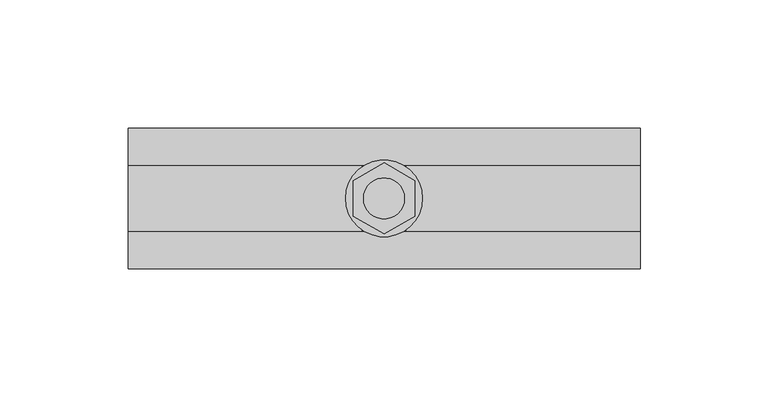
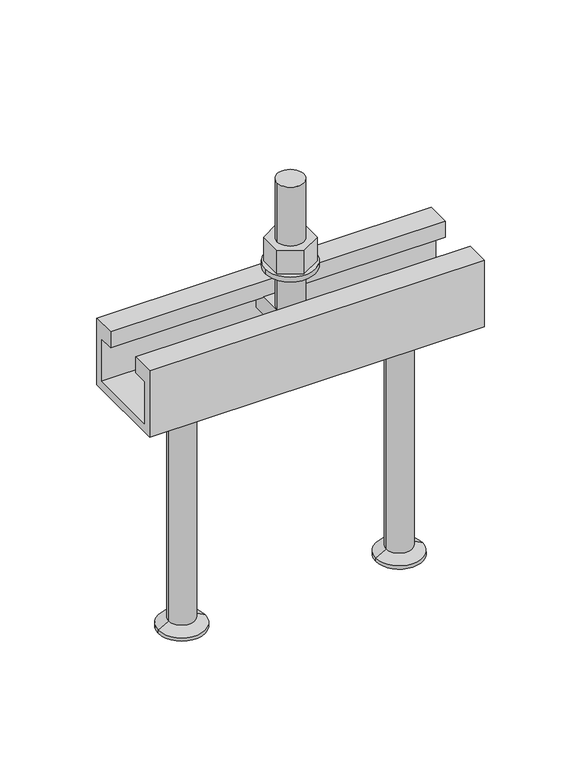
"""IFC4 building model written with IfcOpenShell, lengths in millimetres: fastener geometry, JTA-W JORDAHL® AnchorChannels : JTA-W L=200 mm."""

import ifcopenshell
import ifcopenshell.guid

model = None  # the IFC model being written
_history = None  # IfcOwnerHistory: only IFC2X3 demands one
_inside = {}  # id of a spatial element -> (the spatial element, [elements in it])
_under = {}  # id of a project, library or spatial element -> (it, [spatial elements below it])
_declared = {}  # id of a project -> (the project, [libraries it declares])
_typed = {}  # id of a type object -> (the type object, [elements of that type])
_made_of = {}  # id of a material, layer set ... -> (it, [elements and type objects made of it])


def new_model(schema):
    """Start an empty IFC model of exactly this schema.

    Asked for "IFC4X3", IfcOpenShell would pick the latest addendum, in which some entities
    have other attributes; the version numbers below select the first issue.
    IFC2X3 requires an IfcOwnerHistory on every rooted entity: one is made here for all.
    """
    global model, _history
    if schema == "IFC4X3":
        model = ifcopenshell.file(schema_version=(4, 3, 0, 0))
    else:
        model = ifcopenshell.file(schema=schema)
    _inside.clear()
    _under.clear()
    _declared.clear()
    _typed.clear()
    _made_of.clear()
    _history = None
    if model.schema == "IFC2X3":
        org = make("IfcOrganization", Name="unknown")
        user = make(
            "IfcPersonAndOrganization",
            ThePerson=make("IfcPerson", FamilyName="unknown"),
            TheOrganization=org,
        )
        app = make(
            "IfcApplication",
            ApplicationDeveloper=org,
            Version="unknown",
            ApplicationFullName="unknown",
            ApplicationIdentifier="unknown",
        )
        _history = make(
            "IfcOwnerHistory",
            OwningUser=user,
            OwningApplication=app,
            ChangeAction="ADDED",
            CreationDate=0,
        )
    return model


def make(cls, **values):
    """One entity of the class cls with the attributes given. An attribute that is None is left unset."""
    return model.create_entity(
        cls, **{name: value for name, value in values.items() if value is not None}
    )


def rooted(cls, **values):
    """An entity with a GlobalId (a new one), such as an element, a storey or a relation."""
    return make(cls, GlobalId=ifcopenshell.guid.new(), OwnerHistory=_history, **values)


def si_unit(unit_type, name, prefix=None):
    """IfcSIUnit, for example si_unit("LENGTHUNIT", "METRE", prefix="MILLI")."""
    return make("IfcSIUnit", UnitType=unit_type, Prefix=prefix, Name=name)


def assignment(units):
    """IfcUnitAssignment: the units of a project."""
    return None if units is None else make("IfcUnitAssignment", Units=units)


def point(xyz):
    """IfcCartesianPoint."""
    return None if xyz is None else make("IfcCartesianPoint", Coordinates=xyz)


def direction(xyz):
    """IfcDirection."""
    return None if xyz is None else make("IfcDirection", DirectionRatios=xyz)


def frame(location, z_axis=None, x_axis=None):
    """IfcAxis2Placement3D, a coordinate frame: its origin and axes. An axis left out is left unset."""
    return make(
        "IfcAxis2Placement3D",
        Location=point(location),
        Axis=direction(z_axis),
        RefDirection=direction(x_axis),
    )


def frame_2d(location, x_axis=None):
    """IfcAxis2Placement2D, a coordinate frame in the plane: its origin and x axis."""
    return make(
        "IfcAxis2Placement2D", Location=point(location), RefDirection=direction(x_axis)
    )


def origin():
    """The frame at (0, 0, 0) with its axes left unset."""
    return frame((0.0, 0.0, 0.0))


def place(relative_to, where):
    """IfcLocalPlacement: puts the frame where relative to a parent placement (None: the world)."""
    return make(
        "IfcLocalPlacement", PlacementRelTo=relative_to, RelativePlacement=where
    )


def context(
    kind, dimensions, precision=None, world=None, true_north=None, identifier=None
):
    """IfcGeometricRepresentationContext, for example the 3D "Model" context."""
    return make(
        "IfcGeometricRepresentationContext",
        ContextIdentifier=identifier,
        ContextType=kind,
        CoordinateSpaceDimension=dimensions,
        Precision=precision,
        WorldCoordinateSystem=world,
        TrueNorth=true_north,
    )


def project(units=None, contexts=None):
    """IfcProject with its units and contexts."""
    return rooted(
        "IfcProject",
        Name="project",
        RepresentationContexts=contexts,
        UnitsInContext=assignment(units),
    )


def spatial(cls, under=None, at=None, **own):
    """A site, building, storey or space (cls), placed at a placement, below another one or the project."""
    s = rooted(cls, ObjectPlacement=at, **own)
    if under is not None:
        _under.setdefault(under.id(), (under, []))[1].append(s)
    return s


def polyline(points):
    """IfcPolyline through the points."""
    return make("IfcPolyline", Points=[point(p) for p in points])


def circle_curve(where, radius):
    """IfcCircle in the frame where."""
    return make("IfcCircle", Position=where, Radius=radius)


def trimmed(basis, trim1, trim2, sense, master):
    """IfcTrimmedCurve: the piece of a basis curve between two trims."""
    return make(
        "IfcTrimmedCurve",
        BasisCurve=basis,
        Trim1=trim1,
        Trim2=trim2,
        SenseAgreement=sense,
        MasterRepresentation=master,
    )


def segment(curve, same_sense, transition):
    """IfcCompositeCurveSegment."""
    return make(
        "IfcCompositeCurveSegment",
        Transition=transition,
        SameSense=same_sense,
        ParentCurve=curve,
    )


def composite_curve(segments, self_intersect=None):
    """IfcCompositeCurve: segments joined end to end."""
    return make("IfcCompositeCurve", Segments=segments, SelfIntersect=self_intersect)


def outline(outer, holes=None, kind="AREA"):
    """IfcArbitraryClosedProfileDef: a profile drawn as a closed curve; with holes, ...WithVoids."""
    if holes is None:
        return make("IfcArbitraryClosedProfileDef", ProfileType=kind, OuterCurve=outer)
    return make(
        "IfcArbitraryProfileDefWithVoids",
        ProfileType=kind,
        OuterCurve=outer,
        InnerCurves=holes,
    )


def extrude(swept, where, along, depth):
    """IfcExtrudedAreaSolid: the profile swept, set in the frame where, extruded along a direction by depth."""
    return make(
        "IfcExtrudedAreaSolid",
        SweptArea=swept,
        Position=where,
        ExtrudedDirection=direction(along),
        Depth=depth,
    )


def shape(context_of_items, identifier, shape_type, items):
    """IfcShapeRepresentation: the items that make up one representation, for example the "Body"."""
    return make(
        "IfcShapeRepresentation",
        ContextOfItems=context_of_items,
        RepresentationIdentifier=identifier,
        RepresentationType=shape_type,
        Items=items,
    )


def source(mapping_origin, context_of_items, identifier, shape_type, items):
    """IfcRepresentationMap: a shape defined once, which mapped items show again and again."""
    return make(
        "IfcRepresentationMap",
        MappingOrigin=mapping_origin,
        MappedRepresentation=shape(context_of_items, identifier, shape_type, items),
    )


def transform(
    local_origin,
    x_axis=None,
    y_axis=None,
    z_axis=None,
    scale=None,
    scale2=None,
    scale3=None,
    uniform=True,
):
    """IfcCartesianTransformationOperator3D, or its non-uniform kind. x_axis, y_axis, z_axis: its Axis1, 2, 3."""
    if uniform:
        return make(
            "IfcCartesianTransformationOperator3D",
            Axis1=direction(x_axis),
            Axis2=direction(y_axis),
            LocalOrigin=point(local_origin),
            Scale=scale,
            Axis3=direction(z_axis),
        )
    return make(
        "IfcCartesianTransformationOperator3DnonUniform",
        Axis1=direction(x_axis),
        Axis2=direction(y_axis),
        LocalOrigin=point(local_origin),
        Scale=scale,
        Axis3=direction(z_axis),
        Scale2=scale2,
        Scale3=scale3,
    )


def mapped(mapping_source, mapping_target):
    """IfcMappedItem: shows the shape of a source again, moved by a transform."""
    return make(
        "IfcMappedItem", MappingSource=mapping_source, MappingTarget=mapping_target
    )


def made_of(thing, what):
    """Note that an element or type object is made of a material, layer set ...; save() writes the relation."""
    if what is not None:
        _made_of.setdefault(what.id(), (what, []))[1].append(thing)
    return thing


def element(
    cls,
    number,
    at=None,
    inside=None,
    cuts=None,
    type_object=None,
    material=None,
    context=None,
    identifier="Body",
    shape_type=None,
    held_by="IfcProductDefinitionShape",
    body=None,
    shapes=None,
    **own,
):
    """One element of the class cls, such as IfcWall. Its Tag is "e" and its number.

    at: its placement. inside: the storey or other place that contains it. cuts: it is an
    opening in that element (IfcRelVoidsElement). A single representation is given by context,
    identifier, shape_type and body (its items); several are given by shapes. held_by: the class
    of the entity that holds the representations. save() writes the other relations.
    """
    e = rooted(cls, Tag="e%d" % number, ObjectPlacement=at, **own)
    if body is not None:
        shapes = [shape(context, identifier, shape_type, body)]
    if shapes is not None:
        e.Representation = make(held_by, Representations=shapes)
    if inside is not None:
        _inside.setdefault(inside.id(), (inside, []))[1].append(e)
    if cuts is not None:
        rooted(
            "IfcRelVoidsElement", RelatingBuildingElement=cuts, RelatedOpeningElement=e
        )
    if type_object is not None:
        _typed.setdefault(type_object.id(), (type_object, []))[1].append(e)
    return made_of(e, material)


def aggregate(whole, parts):
    """IfcRelAggregates: a whole, such as a stair, and the parts it consists of."""
    return rooted("IfcRelAggregates", RelatingObject=whole, RelatedObjects=parts)


def save(model, path):
    """Write the relations noted so far, then the file.

    IfcRelAggregates (storeys below a building ...), IfcRelContainedInSpatialStructure (elements
    in a storey), IfcRelDefinesByType, IfcRelAssociatesMaterial and IfcRelDeclares: one each for
    every whole, place, type object, material and project.
    """
    for whole, parts in _under.values():
        aggregate(whole, parts)
    for where, things in _inside.values():
        rooted(
            "IfcRelContainedInSpatialStructure",
            RelatedElements=things,
            RelatingStructure=where,
        )
    for kind, things in _typed.values():
        rooted("IfcRelDefinesByType", RelatedObjects=things, RelatingType=kind)
    for what, things in _made_of.values():
        rooted("IfcRelAssociatesMaterial", RelatedObjects=things, RelatingMaterial=what)
    for by, libraries in _declared.values():
        rooted("IfcRelDeclares", RelatingContext=by, RelatedDefinitions=libraries)
    model.write(path)


def plane_surface(at):
    """IfcPlane: the flat surface through the origin of the frame at, square to its z axis."""
    return make("IfcPlane", Position=at)


def cylinder_surface(at, radius):
    """IfcCylindricalSurface: all points at the distance radius from the z axis of the frame at."""
    return make("IfcCylindricalSurface", Position=at, Radius=radius)


def revolved_surface(curve, axis_point, axis_direction):
    """IfcSurfaceOfRevolution: the curve turned about the line through axis_point along axis_direction."""
    return make(
        "IfcSurfaceOfRevolution",
        SweptCurve=make("IfcArbitraryOpenProfileDef", ProfileType="CURVE", Curve=curve),
        AxisPosition=make("IfcAxis1Placement", Location=point(axis_point), Axis=direction(axis_direction)),
    )


def advanced_brep(points, edges, surfaces, faces):
    """IfcAdvancedBrep: a solid bounded by faces that lie on surfaces and meet in shared edges.

    An edge is (start, end): straight between two places in points (the first is 0);
    or (start, end, curve); or (start, end, curve, False) where it runs against its curve.
    A face is (place in surfaces, loops), or (place, loops, False) where it looks against
    its surface's normal. A loop lists edges by number (the first is 1), with a minus sign
    where the edge is run from its end to its start. The first loop is the outer one.
    """
    corners = [point(p) for p in points]
    vertices = [make("IfcVertexPoint", VertexGeometry=c) for c in corners]
    made = []
    for start, end, *more in edges:
        made.append(
            make(
                "IfcEdgeCurve",
                EdgeStart=vertices[start],
                EdgeEnd=vertices[end],
                EdgeGeometry=more[0] if more else make("IfcPolyline", Points=[corners[start], corners[end]]),
                SameSense=more[1] if len(more) > 1 else True,
            )
        )
    hull = []
    for where, loops, *sense in faces:
        bounds = []
        for j, loop in enumerate(loops):
            ring = [make("IfcOrientedEdge", EdgeElement=made[abs(k) - 1], Orientation=k > 0) for k in loop]
            bounds.append(
                make(
                    "IfcFaceOuterBound" if j == 0 else "IfcFaceBound",
                    Bound=make("IfcEdgeLoop", EdgeList=ring),
                    Orientation=True,
                )
            )
        hull.append(make("IfcAdvancedFace", Bounds=bounds, FaceSurface=surfaces[where], SameSense=sense[0] if sense else True))
    return make("IfcAdvancedBrep", Outer=make("IfcClosedShell", CfsFaces=hull))


def fastener_d6b95dcd(model_context):
    return source(origin(), model_context, "Body", "SolidModel", [
        extrude(outline(polyline([(100.0, -13.8564065), (88.0, -6.9282032), (88.0, 6.9282032), (100.0, 13.8564065), (112.0, 6.9282032), (112.0, -6.9282032), (100.0, -13.8564065)]), holes=[composite_curve([segment(trimmed(circle_curve(frame_2d((100.0, 0.0)), 8.0), [point((92.0, 0.0))], [point((108.0, 0.0))], True, "CARTESIAN"), True, "CONTINUOUS"), segment(trimmed(circle_curve(frame_2d((100.0, 0.0)), 8.0), [point((108.0, 0.0))], [point((92.0, 0.0))], True, "CARTESIAN"), True, "CONTINUOUS")], self_intersect=False)]), frame((0.0, 0.0, 18.0), z_axis=(0.0, 0.0, 1.0), x_axis=(1.0, 0.0, 0.0)), (0.0, 0.0, 1.0), 14.8),
        extrude(outline(composite_curve([segment(trimmed(circle_curve(frame_2d((100.0, 0.0)), 15.0), [point((85.0, 0.0))], [point((115.0, 0.0))], False, "CARTESIAN"), True, "CONTINUOUS"), segment(trimmed(circle_curve(frame_2d((100.0, 0.0)), 15.0), [point((115.0, 0.0))], [point((85.0, 0.0))], False, "CARTESIAN"), True, "CONTINUOUS")], self_intersect=False), holes=[composite_curve([segment(trimmed(circle_curve(frame_2d((100.0, 0.0)), 8.5), [point((91.5, 0.0))], [point((108.5, 0.0))], True, "CARTESIAN"), True, "CONTINUOUS"), segment(trimmed(circle_curve(frame_2d((100.0, 0.0)), 8.5), [point((108.5, 0.0))], [point((91.5, 0.0))], True, "CARTESIAN"), True, "CONTINUOUS")], self_intersect=False)]), frame((0.0, 0.0, 15.0), z_axis=(0.0, 0.0, 1.0), x_axis=(1.0, 0.0, 0.0)), (0.0, 0.0, 1.0), 3.0),
        advanced_brep(
        [(108.5, -20.7, -10.0), (108.5, -20.7, -21.0), (108.5, 20.7, -21.0), (108.5, 20.7, -10.0), (91.5, -20.7, -10.0), (91.5, 20.7, -10.0), (91.5, 20.7, -21.0), (91.5, -20.7, -21.0), (108.0, 0.0, -10.0), (92.0, 0.0, -10.0), (92.0, 0.0, 70.0), (108.0, 0.0, 70.0)],
        [
            (0, 1),
            (1, 2),
            (2, 3),
            (3, 0),
            (4, 5),
            (5, 6),
            (6, 7),
            (7, 4),
            (3, 5),
            (4, 0),
            (8, 9, circle_curve(frame((100.0, 0.0, -10.0), z_axis=(0.0, 0.0, -1.0), x_axis=(1.0, 0.0, 0.0)), 8.0)),
            (9, 8, circle_curve(frame((100.0, 0.0, -10.0), z_axis=(0.0, 0.0, -1.0), x_axis=(1.0, 0.0, 0.0)), 8.0)),
            (2, 6),
            (1, 7),
            (10, 11, circle_curve(frame((100.0, 0.0, 70.0), z_axis=(0.0, 0.0, 1.0), x_axis=(1.0, 0.0, 0.0)), 8.0)),
            (11, 10, circle_curve(frame((100.0, 0.0, 70.0), z_axis=(0.0, 0.0, 1.0), x_axis=(1.0, 0.0, 0.0)), 8.0)),
            (11, 8),
            (9, 10),
        ],
        [
            plane_surface(frame((108.5, 20.7, -10.0), z_axis=(1.0, 0.0, 0.0), x_axis=(0.0, 1.0, 0.0))),
            plane_surface(frame((91.5, 20.7, -10.0), z_axis=(-1.0, 0.0, 0.0), x_axis=(0.0, -1.0, 0.0))),
            plane_surface(frame((108.5, -20.7, -10.0), z_axis=(0.0, 0.0, 1.0), x_axis=(-1.0, 0.0, 0.0))),
            plane_surface(frame((108.5, 20.7, -10.0), z_axis=(0.0, 1.0, 0.0), x_axis=(-1.0, 0.0, 0.0))),
            plane_surface(frame((108.5, 20.7, -21.0), z_axis=(0.0, 0.0, -1.0), x_axis=(-1.0, 0.0, 0.0))),
            plane_surface(frame((108.5, -20.7, -21.0), z_axis=(0.0, -1.0, 0.0), x_axis=(-1.0, 0.0, 0.0))),
            plane_surface(frame((108.0, 0.0, 70.0), z_axis=(0.0, 0.0, 1.0), x_axis=(0.0, -1.0, 0.0))),
            cylinder_surface(frame((100.0, 0.0, -10.0), z_axis=(0.0, 0.0, 1.0), x_axis=(1.0, 0.0, 0.0)), 8.0),
        ],
        [
            (0, [[1, 2, 3, 4]]),
            (1, [[5, 6, 7, 8]]),
            (2, [[9, -5, 10, -4], [11, 12]]),
            (3, [[13, -6, -9, -3]]),
            (4, [[14, -7, -13, -2]]),
            (5, [[-10, -8, -14, -1]]),
            (6, [[15, 16]]),
            (7, [[17, -12, 18, -16]]),
            (7, [[-18, -11, -17, -15]]),
        ],
    ),
        advanced_brep(
        [(165.0, 0.0, -42.0), (142.0, 0.0, -42.0), (188.0, 0.0, -42.0), (151.0, 0.0, -190.0), (165.0, 0.0, -190.0), (179.0, 0.0, -190.0), (151.0, 0.0, -188.0), (179.0, 0.0, -188.0), (157.2, 0.0, -184.4204283), (172.8, 0.0, -184.4204283), (157.2, 0.0, -46.0), (172.8, 0.0, -46.0)],
        [
            (0, 1),
            (1, 2, circle_curve(frame((165.0, 0.0, -42.0), z_axis=(0.0, 0.0, 1.0), x_axis=(1.0, 0.0, 0.0)), 23.0)),
            (2, 0),
            (2, 1, circle_curve(frame((165.0, 0.0, -42.0), z_axis=(0.0, 0.0, 1.0), x_axis=(1.0, 0.0, 0.0)), 23.0)),
            (3, 4),
            (4, 5),
            (5, 3, circle_curve(frame((165.0, 0.0, -190.0), z_axis=(0.0, 0.0, -1.0), x_axis=(1.0, 0.0, 0.0)), 14.0)),
            (3, 5, circle_curve(frame((165.0, 0.0, -190.0), z_axis=(0.0, 0.0, -1.0), x_axis=(1.0, 0.0, 0.0)), 14.0)),
            (6, 3),
            (5, 7),
            (7, 6, circle_curve(frame((165.0, 0.0, -188.0), z_axis=(0.0, 0.0, -1.0), x_axis=(1.0, 0.0, 0.0)), 14.0)),
            (6, 7, circle_curve(frame((165.0, 0.0, -188.0), z_axis=(0.0, 0.0, -1.0), x_axis=(1.0, 0.0, 0.0)), 14.0)),
            (8, 6),
            (7, 9),
            (9, 8, circle_curve(frame((165.0, 0.0, -184.4204283), z_axis=(0.0, 0.0, -1.0), x_axis=(1.0, 0.0, 0.0)), 7.8)),
            (8, 9, circle_curve(frame((165.0, 0.0, -184.4204283), z_axis=(0.0, 0.0, -1.0), x_axis=(1.0, 0.0, 0.0)), 7.8)),
            (10, 8),
            (9, 11),
            (11, 10, circle_curve(frame((165.0, 0.0, -46.0), z_axis=(0.0, 0.0, -1.0), x_axis=(1.0, 0.0, 0.0)), 7.8)),
            (10, 11, circle_curve(frame((165.0, 0.0, -46.0), z_axis=(0.0, 0.0, -1.0), x_axis=(1.0, 0.0, 0.0)), 7.8)),
            (1, 10),
            (11, 2),
        ],
        [
            plane_surface(frame((165.0, 0.0, -42.0), z_axis=(0.0, 0.0, 1.0), x_axis=(1.0, 0.0, 0.0))),
            plane_surface(frame((165.0, 0.0, -190.0), z_axis=(0.0, 0.0, -1.0), x_axis=(1.0, 0.0, 0.0))),
            cylinder_surface(frame((165.0, 0.0, 2362.3150031), z_axis=(0.0, 0.0, 1.0), x_axis=(1.0, 0.0, 0.0)), 14.0),
            revolved_surface(polyline([(179.0, 0.0, -188.0), (172.8, 0.0, -184.4204283)]), (165.0, 0.0, 2362.3150031), (0.0, 0.0, 1.0)),
            cylinder_surface(frame((165.0, 0.0, 2362.3150031), z_axis=(0.0, 0.0, 1.0), x_axis=(1.0, 0.0, 0.0)), 7.8),
            revolved_surface(polyline([(172.8, 0.0, -46.0), (188.0, 0.0, -42.0)]), (165.0, 0.0, 2362.3150031), (0.0, 0.0, 1.0)),
        ],
        [
            (0, [[1, 2, 3]]),
            (0, [[-3, 4, -1]]),
            (1, [[5, 6, 7]]),
            (1, [[-6, -5, 8]]),
            (2, [[9, -7, 10, 11]]),
            (2, [[-10, -8, -9, 12]]),
            (3, [[13, -11, 14, 15]]),
            (3, [[-14, -12, -13, 16]]),
            (4, [[17, -15, 18, 19]]),
            (4, [[-18, -16, -17, 20]]),
            (5, [[21, -19, 22, -2]]),
            (5, [[-22, -20, -21, -4]]),
        ],
    ),
        advanced_brep(
        [(35.0, 0.0, -42.0), (12.0, 0.0, -42.0), (58.0, 0.0, -42.0), (21.0, 0.0, -190.0), (35.0, 0.0, -190.0), (49.0, 0.0, -190.0), (21.0, 0.0, -188.0), (49.0, 0.0, -188.0), (27.2, 0.0, -184.4204283), (42.8, 0.0, -184.4204283), (27.2, 0.0, -46.0), (42.8, 0.0, -46.0)],
        [
            (0, 1),
            (1, 2, circle_curve(frame((35.0, 0.0, -42.0), z_axis=(0.0, 0.0, 1.0), x_axis=(1.0, 0.0, 0.0)), 23.0)),
            (2, 0),
            (2, 1, circle_curve(frame((35.0, 0.0, -42.0), z_axis=(0.0, 0.0, 1.0), x_axis=(1.0, 0.0, 0.0)), 23.0)),
            (3, 4),
            (4, 5),
            (5, 3, circle_curve(frame((35.0, 0.0, -190.0), z_axis=(0.0, 0.0, -1.0), x_axis=(1.0, 0.0, 0.0)), 14.0)),
            (3, 5, circle_curve(frame((35.0, 0.0, -190.0), z_axis=(0.0, 0.0, -1.0), x_axis=(1.0, 0.0, 0.0)), 14.0)),
            (6, 3),
            (5, 7),
            (7, 6, circle_curve(frame((35.0, 0.0, -188.0), z_axis=(0.0, 0.0, -1.0), x_axis=(1.0, 0.0, 0.0)), 14.0)),
            (6, 7, circle_curve(frame((35.0, 0.0, -188.0), z_axis=(0.0, 0.0, -1.0), x_axis=(1.0, 0.0, 0.0)), 14.0)),
            (8, 6),
            (7, 9),
            (9, 8, circle_curve(frame((35.0, 0.0, -184.4204283), z_axis=(0.0, 0.0, -1.0), x_axis=(1.0, 0.0, 0.0)), 7.8)),
            (8, 9, circle_curve(frame((35.0, 0.0, -184.4204283), z_axis=(0.0, 0.0, -1.0), x_axis=(1.0, 0.0, 0.0)), 7.8)),
            (10, 8),
            (9, 11),
            (11, 10, circle_curve(frame((35.0, 0.0, -46.0), z_axis=(0.0, 0.0, -1.0), x_axis=(1.0, 0.0, 0.0)), 7.8)),
            (10, 11, circle_curve(frame((35.0, 0.0, -46.0), z_axis=(0.0, 0.0, -1.0), x_axis=(1.0, 0.0, 0.0)), 7.8)),
            (1, 10),
            (11, 2),
        ],
        [
            plane_surface(frame((35.0, 0.0, -42.0), z_axis=(0.0, 0.0, 1.0), x_axis=(1.0, 0.0, 0.0))),
            plane_surface(frame((35.0, 0.0, -190.0), z_axis=(0.0, 0.0, -1.0), x_axis=(1.0, 0.0, 0.0))),
            cylinder_surface(frame((35.0, 0.0, 2362.3150031), z_axis=(0.0, 0.0, 1.0), x_axis=(1.0, 0.0, 0.0)), 14.0),
            revolved_surface(polyline([(49.0, 0.0, -188.0), (42.8, 0.0, -184.4204283)]), (35.0, 0.0, 2362.3150031), (0.0, 0.0, 1.0)),
            cylinder_surface(frame((35.0, 0.0, 2362.3150031), z_axis=(0.0, 0.0, 1.0), x_axis=(1.0, 0.0, 0.0)), 7.8),
            revolved_surface(polyline([(42.8, 0.0, -46.0), (58.0, 0.0, -42.0)]), (35.0, 0.0, 2362.3150031), (0.0, 0.0, 1.0)),
        ],
        [
            (0, [[1, 2, 3]]),
            (0, [[-3, 4, -1]]),
            (1, [[5, 6, 7]]),
            (1, [[-6, -5, 8]]),
            (2, [[9, -7, 10, 11]]),
            (2, [[-10, -8, -9, 12]]),
            (3, [[13, -11, 14, 15]]),
            (3, [[-14, -12, -13, 16]]),
            (4, [[17, -15, 18, 19]]),
            (4, [[-18, -16, -17, 20]]),
            (5, [[21, -19, 22, -2]]),
            (5, [[-22, -20, -21, -4]]),
        ],
    ),
        extrude(outline(polyline([(-27.5, 0.0), (-13.0, 0.0), (-13.0, -10.0), (-22.5, -10.0), (-22.5, -37.0), (22.5, -37.0), (22.5, -10.0), (13.0, -10.0), (13.0, 0.0), (27.5, 0.0), (27.5, -42.0), (-27.5, -42.0), (-27.5, 0.0)])), frame((0.0, 0.0, 0.0), z_axis=(1.0, 0.0, 0.0), x_axis=(0.0, 1.0, 0.0)), (0.0, 0.0, 1.0), 200.0),
    ])


if __name__ == "__main__":
    model = new_model("IFC4")
    model_context = context("Model", 3, world=origin())
    ifc_project = project(units=[si_unit("LENGTHUNIT", "METRE", prefix="MILLI")], contexts=[model_context])
    site = spatial("IfcSite", under=ifc_project)
    building = spatial("IfcBuilding", under=site)
    placement = place(None, origin())
    fastener_shape = fastener_d6b95dcd(model_context)
    element("IfcFastener", 1, ObjectType="JTA-W JORDAHL® AnchorChannels : JTA-W L=200 mm", at=placement, inside=building, context=model_context, shape_type="MappedRepresentation", body=[
        mapped(fastener_shape, transform((0.0, 0.0, 0.0), x_axis=(1.0, 0.0, 0.0), y_axis=(0.0, 1.0, 0.0), z_axis=(0.0, 0.0, 1.0))),
    ])
    save(model, "model.ifc")
